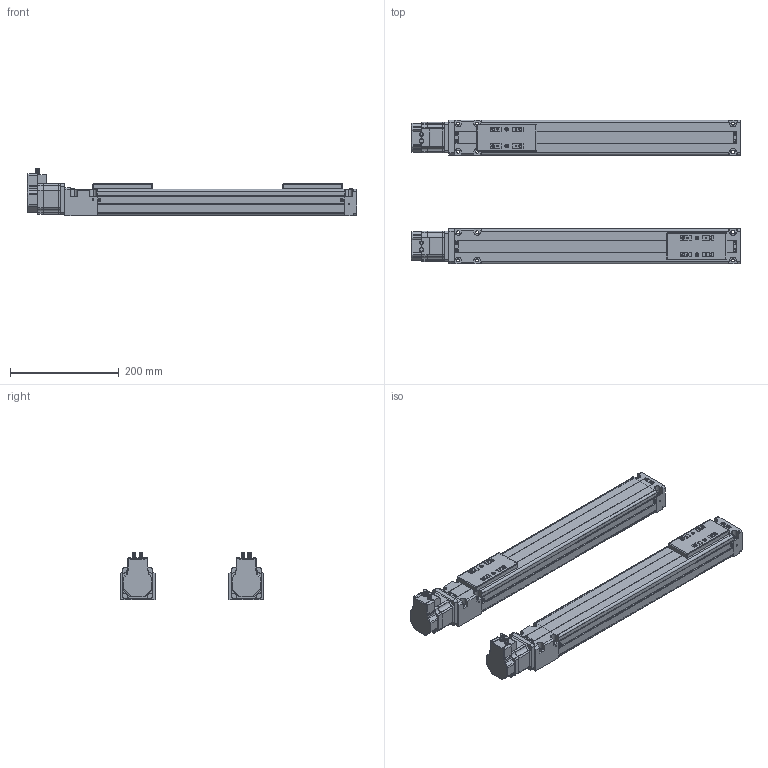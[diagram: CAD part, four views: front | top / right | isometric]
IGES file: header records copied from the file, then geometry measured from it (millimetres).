
Start section: IMSI TurboCAD v14.0
Global section: author: NULL; organization: NULL; date: 20151219.125350; units: millimetre
Bounding box: 606 x 264 x 87.99 mm (x, y, z)
Surface area: 664827.7 mm2 (no closed solid volume)
Topology: 0 solids, 0 shells, 2622 faces, 14498 edges, 14470 vertices
Faces by surface type: extrusion 1956, revolution 596, bspline 70
